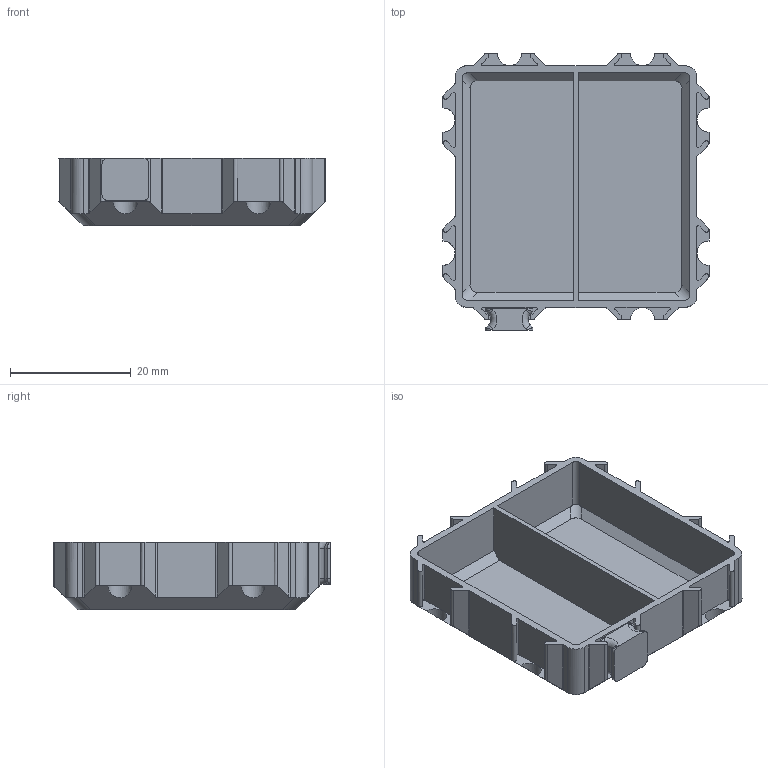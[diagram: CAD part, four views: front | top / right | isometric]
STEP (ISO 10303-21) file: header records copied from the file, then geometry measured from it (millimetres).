
FILE_DESCRIPTION(/* description */ (''),/* implementation_level */ '2;1');
FILE_NAME(/* name */ 'BOX_x02_y02_z010_txn_ty0.stp',/* time_stamp */ '2024-02-16T08:37:11+01:00',/* author */ ('ott'),/* organization */ (''),/* preprocessor_version */ 'ST-DEVELOPER v19.2',/* originating_system */ 'Autodesk Inventor 2023',/* authorisation */ '');
FILE_SCHEMA (('AUTOMOTIVE_DESIGN { 1 0 10303 214 3 1 1 }'));
Length unit declared in the file: millimetre
Products named in the file (1): BOX_x02_y02_z010_txn_ty0
Bounding box: 44 x 45.8 x 11.2 mm (x, y, z)
Volume: 4408.7 mm3; surface area: 7730.5 mm2
Topology: 2 solids, 2 shells, 186 faces, 518 edges, 338 vertices
Faces by surface type: plane 102, cylinder 80, torus 4
Entity records: 6299 total; most frequent: CARTESIAN_POINT 1131, DIRECTION 1068, ORIENTED_EDGE 1036, EDGE_CURVE 518, AXIS2_PLACEMENT_3D 371, VERTEX_POINT 338, LINE 326, VECTOR 326
